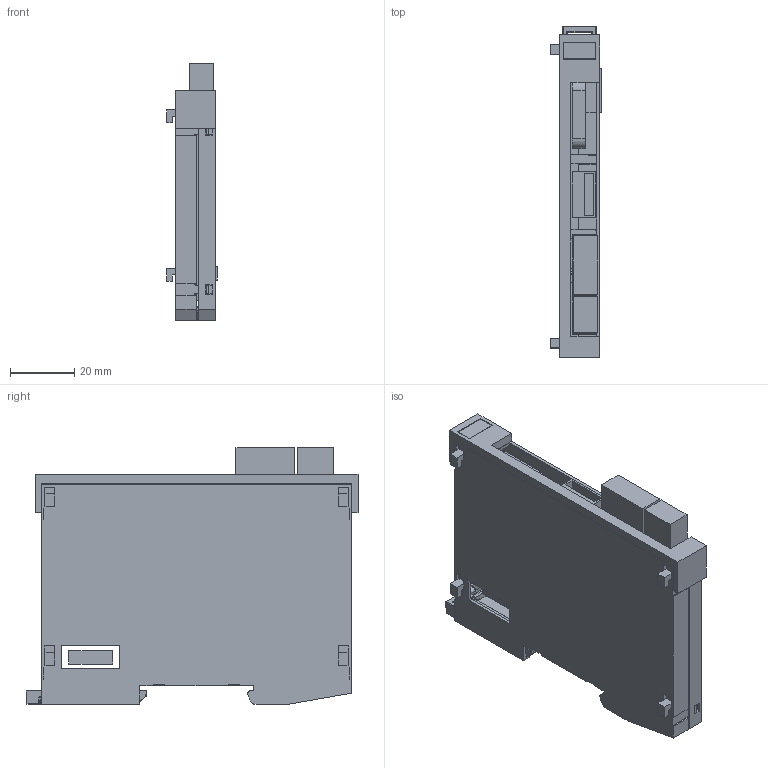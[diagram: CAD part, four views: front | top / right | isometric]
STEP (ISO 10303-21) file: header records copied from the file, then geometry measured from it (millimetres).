
FILE_DESCRIPTION (( 'STEP AP214' ), '1' );
FILE_NAME ('PS101 support.STEP', '2015-07-03T07:11:26', ( 'SIGMATEK GmbH & Co KG' ), ( 'SIGMATEK GmbH & Co KG' ), 'SwSTEP 2.0', 'SolidWorks 2013', '' );
FILE_SCHEMA (( 'AUTOMOTIVE_DESIGN' ));
Length unit declared in the file: millimetre
Products named in the file (14): S-Dias Rasthaken 20130313; Schieber_f Suport; S-Dias Schale rechts_f Suport; S-Dias Schale links_f Suport; 4110251342_MF 10-5 MC CABUR_1854510000; PS101 support; LP_PS101; Dummy____________fmc_1.5 5pol 1952296; Dummy____________fmc_1.5 3pol 1952296; Dummy_4110262152 5pol Buchse; Dummy_4110262113 3pol Buchse; Dummy_7257771019_Batteriehalter; Dummy_4080225240 USB Buchse; Dummy_4080225345 Erni Buchse
Assembly tree (13 placements, depth 3):
  PS101 support
    4110251342_MF 10-5 MC CABUR_1854510000
    S-Dias Schale links_f Suport
    S-Dias Schale rechts_f Suport
    Schieber_f Suport
    S-Dias Rasthaken 20130313
    LP_PS101
      Dummy_4080225345 Erni Buchse
      Dummy_4080225240 USB Buchse
      Dummy_7257771019_Batteriehalter
      Dummy_4110262113 3pol Buchse
      Dummy_4110262152 5pol Buchse
      Dummy____________fmc_1.5 3pol 1952296
      Dummy____________fmc_1.5 5pol 1952296
Bounding box: 15.85 x 103.61 x 80.15 mm (x, y, z)
Volume: 29010.4 mm3; surface area: 43452.2 mm2
Topology: 12 solids, 12 shells, 781 faces, 2275 edges, 1506 vertices
Faces by surface type: plane 540, cylinder 130, bspline 55, cone 28, torus 15, sphere 13
Entity records: 30669 total; most frequent: CARTESIAN_POINT 7264, ORIENTED_EDGE 4508, DIRECTION 3525, EDGE_CURVE 2254, VECTOR 1601, LINE 1601, VERTEX_POINT 1498, AXIS2_PLACEMENT_3D 962
